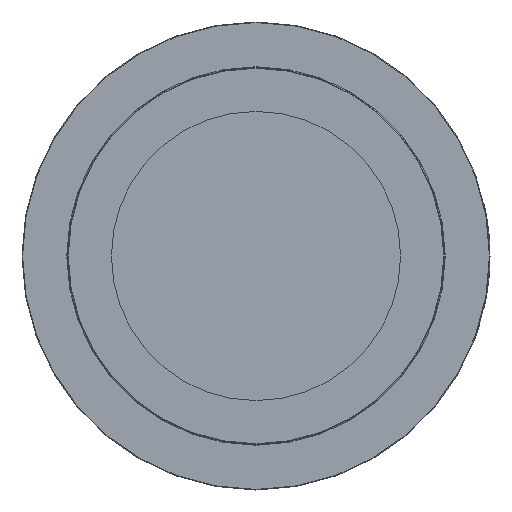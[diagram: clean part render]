
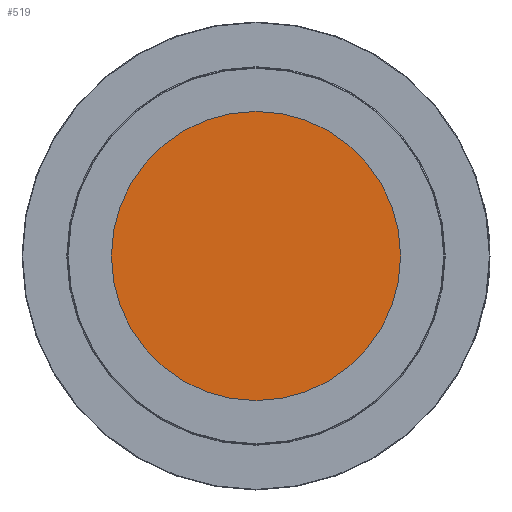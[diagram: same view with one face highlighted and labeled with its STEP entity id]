
A CAD part, left-side view. The second image highlights one B-rep face of the part: STEP entity #519.
In plain terms, the highlighted planar face has unit normal (-1, 0, 0).
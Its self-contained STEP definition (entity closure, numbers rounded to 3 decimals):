
#519 = ADVANCED_FACE( '', ( #1140 ), #1141, .F. );
#1140 = FACE_OUTER_BOUND( '', #2655, .T. );
#1141 = PLANE( '', #2656 );
#2655 = EDGE_LOOP( '', ( #4813 ) );
#2656 = AXIS2_PLACEMENT_3D( '', #4814, #4815, #4816 );
#4813 = ORIENTED_EDGE( '', *, *, #5869, .T. );
#4814 = CARTESIAN_POINT( '', ( 0., 0., 0. ) );
#4815 = DIRECTION( '', ( 1., 0., 0. ) );
#4816 = DIRECTION( '', ( 0., 0., -1. ) );
#5869 = EDGE_CURVE( '', #6927, #6927, #6928, .T. );
#6927 = VERTEX_POINT( '', #9247 );
#6928 = CIRCLE( '', #9248, 127.508 );
#9247 = CARTESIAN_POINT( '', ( 0., 0., 127.508 ) );
#9248 = AXIS2_PLACEMENT_3D( '', #10043, #10044, #10045 );
#10043 = CARTESIAN_POINT( '', ( 0., 0., 0. ) );
#10044 = DIRECTION( '', ( -1., 0., 0. ) );
#10045 = DIRECTION( '', ( 0., 0., 1. ) );
